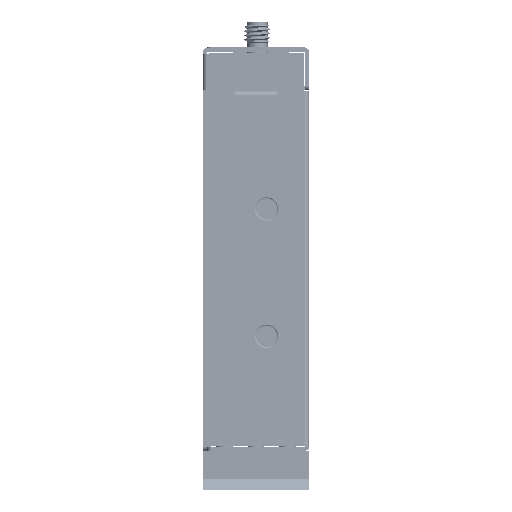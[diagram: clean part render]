
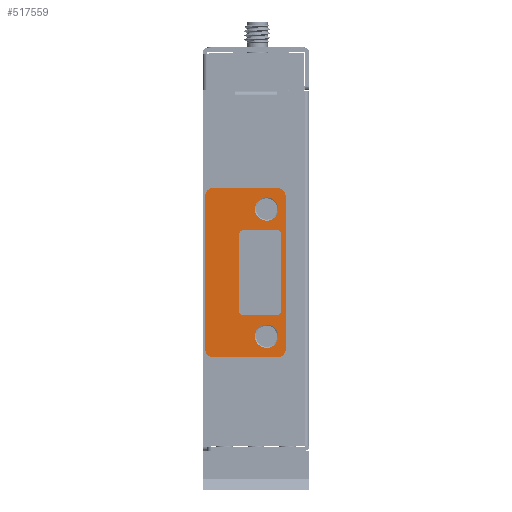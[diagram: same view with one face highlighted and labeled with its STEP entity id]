
A CAD part, front view. The second image highlights one B-rep face of the part: STEP entity #517559.
In plain terms, the highlighted planar face has unit normal (0, -1, 0) as drawn and (0, 0, 1) by its records, which use the part's own axes.
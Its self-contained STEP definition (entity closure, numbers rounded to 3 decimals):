
#10113 = CARTESIAN_POINT ( 'NONE',  ( 37.75, 14.5, 0.8 ) ) ;
#14166 = CARTESIAN_POINT ( 'NONE',  ( 5., 14.5, 0.8 ) ) ;
#16911 = EDGE_CURVE ( 'NONE', #513003, #353361, #433886, .T. ) ;
#18546 = CARTESIAN_POINT ( 'NONE',  ( 2., 2., 0.8 ) ) ;
#21040 = CARTESIAN_POINT ( 'NONE',  ( 0., 2., 0.8 ) ) ;
#27485 = EDGE_CURVE ( 'NONE', #157983, #476463, #158407, .T. ) ;
#34463 = CIRCLE ( 'NONE', #102876, 2. ) ;
#35609 = EDGE_CURVE ( 'NONE', #476463, #178472, #284532, .T. ) ;
#41332 = EDGE_CURVE ( 'NONE', #178472, #67443, #470541, .T. ) ;
#61200 = FACE_BOUND ( 'NONE', #419619, .T. ) ;
#67443 = VERTEX_POINT ( 'NONE', #364115 ) ;
#73553 = ORIENTED_EDGE ( 'NONE', *, *, #449866, .F. ) ;
#91039 = DIRECTION ( 'NONE',  ( -1., 0., 0. ) ) ;
#95892 = EDGE_LOOP ( 'NONE', ( #155245, #518395, #185836, #272172, #410179, #334898, #99451, #486223 ) ) ;
#96088 = FACE_OUTER_BOUND ( 'NONE', #95892, .T. ) ;
#99451 = ORIENTED_EDGE ( 'NONE', *, *, #474556, .T. ) ;
#100442 = CARTESIAN_POINT ( 'NONE',  ( 2., 0., 0.8 ) ) ;
#102876 = AXIS2_PLACEMENT_3D ( 'NONE', #204633, #156664, #244742 ) ;
#105186 = EDGE_CURVE ( 'NONE', #162789, #300666, #335679, .T. ) ;
#107521 = EDGE_CURVE ( 'NONE', #275274, #151968, #304321, .T. ) ;
#109626 = AXIS2_PLACEMENT_3D ( 'NONE', #14166, #177270, #214769 ) ;
#111393 = CARTESIAN_POINT ( 'NONE',  ( 40., 17., 0.8 ) ) ;
#140148 = EDGE_LOOP ( 'NONE', ( #224911, #446470 ) ) ;
#149533 = EDGE_CURVE ( 'NONE', #353361, #513003, #170469, .T. ) ;
#150776 = AXIS2_PLACEMENT_3D ( 'NONE', #18546, #334069, #422200 ) ;
#151968 = VERTEX_POINT ( 'NONE', #21040 ) ;
#155245 = ORIENTED_EDGE ( 'NONE', *, *, #365522, .T. ) ;
#156664 = DIRECTION ( 'NONE',  ( 0., 0., 1. ) ) ;
#157983 = VERTEX_POINT ( 'NONE', #441683 ) ;
#158407 = LINE ( 'NONE', #364108, #386030 ) ;
#162789 = VERTEX_POINT ( 'NONE', #493111 ) ;
#170469 = CIRCLE ( 'NONE', #289861, 2.75 ) ;
#176121 = AXIS2_PLACEMENT_3D ( 'NONE', #294471, #505399, #462690 ) ;
#177270 = DIRECTION ( 'NONE',  ( 0., 0., 1. ) ) ;
#178472 = VERTEX_POINT ( 'NONE', #358187 ) ;
#185836 = ORIENTED_EDGE ( 'NONE', *, *, #195764, .T. ) ;
#191089 = DIRECTION ( 'NONE',  ( 0., 0., 1. ) ) ;
#195764 = EDGE_CURVE ( 'NONE', #300666, #157983, #34463, .T. ) ;
#204633 = CARTESIAN_POINT ( 'NONE',  ( 38., 2., 0.8 ) ) ;
#214769 = DIRECTION ( 'NONE',  ( 1., 0., 0. ) ) ;
#221507 = DIRECTION ( 'NONE',  ( 0., -1., 0. ) ) ;
#221772 = CIRCLE ( 'NONE', #452177, 2. ) ;
#222878 = DIRECTION ( 'NONE',  ( -1., 0., 0. ) ) ;
#224119 = CARTESIAN_POINT ( 'NONE',  ( 0., 2., 0.8 ) ) ;
#224911 = ORIENTED_EDGE ( 'NONE', *, *, #149533, .F. ) ;
#229563 = VERTEX_POINT ( 'NONE', #416096 ) ;
#244742 = DIRECTION ( 'NONE',  ( 1., 0., 0. ) ) ;
#252191 = DIRECTION ( 'NONE',  ( 0., 0., 1. ) ) ;
#256528 = FACE_BOUND ( 'NONE', #140148, .T. ) ;
#270835 = ORIENTED_EDGE ( 'NONE', *, *, #407974, .F. ) ;
#272172 = ORIENTED_EDGE ( 'NONE', *, *, #27485, .T. ) ;
#275274 = VERTEX_POINT ( 'NONE', #335576 ) ;
#283639 = CARTESIAN_POINT ( 'NONE',  ( 2., 2., 0.8 ) ) ;
#284532 = CIRCLE ( 'NONE', #455154, 2. ) ;
#289861 = AXIS2_PLACEMENT_3D ( 'NONE', #325320, #443025, #450941 ) ;
#294471 = CARTESIAN_POINT ( 'NONE',  ( 35., 14.5, 0.8 ) ) ;
#300421 = DIRECTION ( 'NONE',  ( 0., 0., 1. ) ) ;
#300666 = VERTEX_POINT ( 'NONE', #300674 ) ;
#300674 = CARTESIAN_POINT ( 'NONE',  ( 38., 0., 0.8 ) ) ;
#304321 = LINE ( 'NONE', #224119, #416868 ) ;
#307570 = DIRECTION ( 'NONE',  ( -1., 0., 0. ) ) ;
#308796 = DIRECTION ( 'NONE',  ( 1., 0., 0. ) ) ;
#313518 = DIRECTION ( 'NONE',  ( 0., 1., 0. ) ) ;
#325320 = CARTESIAN_POINT ( 'NONE',  ( 5., 14.5, 0.8 ) ) ;
#329676 = DIRECTION ( 'NONE',  ( -1., 0., 0. ) ) ;
#334069 = DIRECTION ( 'NONE',  ( 0., 0., -1. ) ) ;
#334898 = ORIENTED_EDGE ( 'NONE', *, *, #41332, .T. ) ;
#335576 = CARTESIAN_POINT ( 'NONE',  ( 0., 17., 0.8 ) ) ;
#335679 = LINE ( 'NONE', #100442, #363522 ) ;
#338744 = AXIS2_PLACEMENT_3D ( 'NONE', #351486, #191089, #308796 ) ;
#349410 = CARTESIAN_POINT ( 'NONE',  ( 7.75, 14.5, 0.8 ) ) ;
#351486 = CARTESIAN_POINT ( 'NONE',  ( 35., 14.5, 0.8 ) ) ;
#353361 = VERTEX_POINT ( 'NONE', #349410 ) ;
#358187 = CARTESIAN_POINT ( 'NONE',  ( 38., 19., 0.8 ) ) ;
#363522 = VECTOR ( 'NONE', #383792, 1000. ) ;
#364108 = CARTESIAN_POINT ( 'NONE',  ( 40., 2., 0.8 ) ) ;
#364115 = CARTESIAN_POINT ( 'NONE',  ( 2., 19., 0.8 ) ) ;
#365522 = EDGE_CURVE ( 'NONE', #151968, #162789, #517386, .T. ) ;
#377716 = CARTESIAN_POINT ( 'NONE',  ( 38., 17., 0.8 ) ) ;
#383792 = DIRECTION ( 'NONE',  ( 1., 0., 0. ) ) ;
#386030 = VECTOR ( 'NONE', #313518, 1000. ) ;
#387404 = PLANE ( 'NONE',  #150776 ) ;
#406528 = DIRECTION ( 'NONE',  ( 0., 0., 1. ) ) ;
#407974 = EDGE_CURVE ( 'NONE', #483358, #229563, #500904, .T. ) ;
#410179 = ORIENTED_EDGE ( 'NONE', *, *, #35609, .T. ) ;
#414779 = AXIS2_PLACEMENT_3D ( 'NONE', #283639, #406528, #91039 ) ;
#416096 = CARTESIAN_POINT ( 'NONE',  ( 32.25, 14.5, 0.8 ) ) ;
#416868 = VECTOR ( 'NONE', #221507, 1000. ) ;
#419619 = EDGE_LOOP ( 'NONE', ( #270835, #73553 ) ) ;
#419870 = CARTESIAN_POINT ( 'NONE',  ( 2., 19., 0.8 ) ) ;
#422200 = DIRECTION ( 'NONE',  ( 0., -1., 0. ) ) ;
#433886 = CIRCLE ( 'NONE', #109626, 2.75 ) ;
#437476 = VECTOR ( 'NONE', #307570, 1000. ) ;
#441683 = CARTESIAN_POINT ( 'NONE',  ( 40., 2., 0.8 ) ) ;
#443025 = DIRECTION ( 'NONE',  ( 0., 0., 1. ) ) ;
#446470 = ORIENTED_EDGE ( 'NONE', *, *, #16911, .F. ) ;
#449866 = EDGE_CURVE ( 'NONE', #229563, #483358, #500419, .T. ) ;
#450941 = DIRECTION ( 'NONE',  ( 1., 0., 0. ) ) ;
#452177 = AXIS2_PLACEMENT_3D ( 'NONE', #468692, #300421, #222878 ) ;
#455154 = AXIS2_PLACEMENT_3D ( 'NONE', #377716, #252191, #329676 ) ;
#462690 = DIRECTION ( 'NONE',  ( 1., 0., 0. ) ) ;
#468692 = CARTESIAN_POINT ( 'NONE',  ( 2., 17., 0.8 ) ) ;
#470541 = LINE ( 'NONE', #419870, #437476 ) ;
#474556 = EDGE_CURVE ( 'NONE', #67443, #275274, #221772, .T. ) ;
#476463 = VERTEX_POINT ( 'NONE', #111393 ) ;
#483358 = VERTEX_POINT ( 'NONE', #10113 ) ;
#486223 = ORIENTED_EDGE ( 'NONE', *, *, #107521, .T. ) ;
#493111 = CARTESIAN_POINT ( 'NONE',  ( 2., 0., 0.8 ) ) ;
#500419 = CIRCLE ( 'NONE', #176121, 2.75 ) ;
#500904 = CIRCLE ( 'NONE', #338744, 2.75 ) ;
#505399 = DIRECTION ( 'NONE',  ( 0., 0., 1. ) ) ;
#513003 = VERTEX_POINT ( 'NONE', #526569 ) ;
#517386 = CIRCLE ( 'NONE', #414779, 2. ) ;
#517559 = ADVANCED_FACE ( 'NONE', ( #256528, #61200, #96088 ), #387404, .F. ) ;
#518395 = ORIENTED_EDGE ( 'NONE', *, *, #105186, .T. ) ;
#526569 = CARTESIAN_POINT ( 'NONE',  ( 2.25, 14.5, 0.8 ) ) ;
